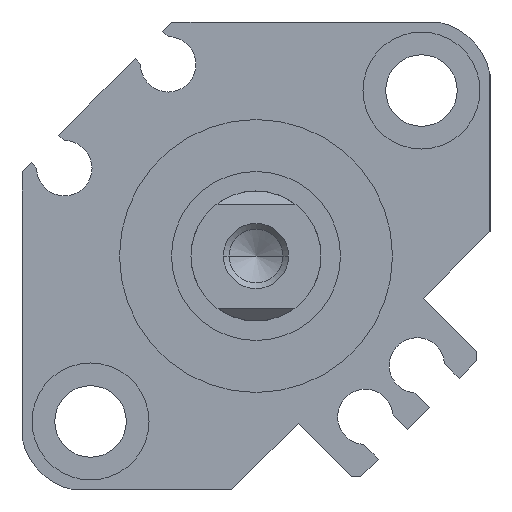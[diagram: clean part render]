
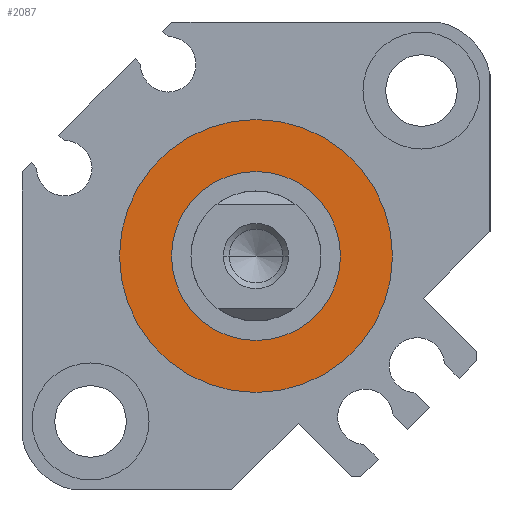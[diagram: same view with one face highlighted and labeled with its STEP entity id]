
A CAD part, left-side view. The second image highlights one B-rep face of the part: STEP entity #2087.
In plain terms, the highlighted planar face has unit normal (-1, 0, 0).
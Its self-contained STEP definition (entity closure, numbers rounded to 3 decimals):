
#95 = CARTESIAN_POINT ( 'NONE',  ( 1.6, 0., 0. ) ) ;
#120 = CARTESIAN_POINT ( 'NONE',  ( 1.6, 0., 0. ) ) ;
#224 = CIRCLE ( 'NONE', #1763, 6.5 ) ;
#293 = FACE_OUTER_BOUND ( 'NONE', #2752, .T. ) ;
#364 = CARTESIAN_POINT ( 'NONE',  ( 1.6, 0., 0. ) ) ;
#391 = CARTESIAN_POINT ( 'NONE',  ( 1.6, 0., 10.5 ) ) ;
#570 = CIRCLE ( 'NONE', #3395, 10.5 ) ;
#589 = DIRECTION ( 'NONE',  ( 1., 0., 0. ) ) ;
#620 = DIRECTION ( 'NONE',  ( 0., 0., -1. ) ) ;
#714 = VERTEX_POINT ( 'NONE', #2273 ) ;
#798 = ORIENTED_EDGE ( 'NONE', *, *, #2980, .T. ) ;
#889 = CIRCLE ( 'NONE', #1054, 10.5 ) ;
#1036 = EDGE_CURVE ( 'NONE', #1856, #2837, #570, .T. ) ;
#1054 = AXIS2_PLACEMENT_3D ( 'NONE', #364, #1401, #3298 ) ;
#1056 = DIRECTION ( 'NONE',  ( 0., 1., 0. ) ) ;
#1094 = PLANE ( 'NONE',  #1278 ) ;
#1254 = DIRECTION ( 'NONE',  ( 0., 0., -1. ) ) ;
#1278 = AXIS2_PLACEMENT_3D ( 'NONE', #2889, #1878, #1056 ) ;
#1401 = DIRECTION ( 'NONE',  ( 1., 0., 0. ) ) ;
#1414 = CARTESIAN_POINT ( 'NONE',  ( 1.6, 0., -10.5 ) ) ;
#1430 = AXIS2_PLACEMENT_3D ( 'NONE', #95, #1733, #1254 ) ;
#1612 = CARTESIAN_POINT ( 'NONE',  ( 1.6, 0., 0. ) ) ;
#1733 = DIRECTION ( 'NONE',  ( 1., 0., 0. ) ) ;
#1763 = AXIS2_PLACEMENT_3D ( 'NONE', #1612, #3206, #3222 ) ;
#1856 = VERTEX_POINT ( 'NONE', #1414 ) ;
#1878 = DIRECTION ( 'NONE',  ( 1., 0., 0. ) ) ;
#2087 = ADVANCED_FACE ( 'NONE', ( #293, #2663 ), #1094, .F. ) ;
#2273 = CARTESIAN_POINT ( 'NONE',  ( 1.6, 0., 6.5 ) ) ;
#2335 = ORIENTED_EDGE ( 'NONE', *, *, #3250, .T. ) ;
#2480 = ORIENTED_EDGE ( 'NONE', *, *, #3373, .F. ) ;
#2600 = CIRCLE ( 'NONE', #1430, 6.5 ) ;
#2635 = VERTEX_POINT ( 'NONE', #2709 ) ;
#2663 = FACE_BOUND ( 'NONE', #3188, .T. ) ;
#2709 = CARTESIAN_POINT ( 'NONE',  ( 1.6, 0., -6.5 ) ) ;
#2752 = EDGE_LOOP ( 'NONE', ( #2480, #2863 ) ) ;
#2837 = VERTEX_POINT ( 'NONE', #391 ) ;
#2863 = ORIENTED_EDGE ( 'NONE', *, *, #1036, .F. ) ;
#2889 = CARTESIAN_POINT ( 'NONE',  ( 1.6, 0., 0. ) ) ;
#2980 = EDGE_CURVE ( 'NONE', #2635, #714, #2600, .T. ) ;
#3188 = EDGE_LOOP ( 'NONE', ( #2335, #798 ) ) ;
#3206 = DIRECTION ( 'NONE',  ( 1., 0., 0. ) ) ;
#3222 = DIRECTION ( 'NONE',  ( 0., 0., -1. ) ) ;
#3250 = EDGE_CURVE ( 'NONE', #714, #2635, #224, .T. ) ;
#3298 = DIRECTION ( 'NONE',  ( 0., 0., -1. ) ) ;
#3373 = EDGE_CURVE ( 'NONE', #2837, #1856, #889, .T. ) ;
#3395 = AXIS2_PLACEMENT_3D ( 'NONE', #120, #589, #620 ) ;
